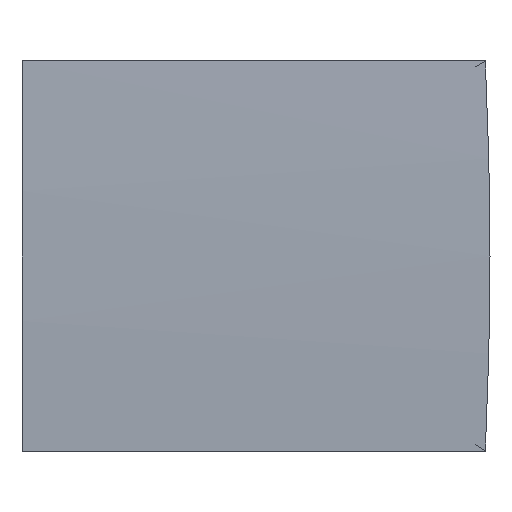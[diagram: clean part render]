
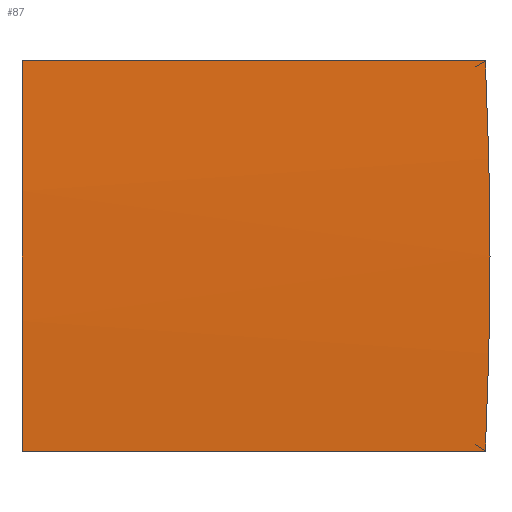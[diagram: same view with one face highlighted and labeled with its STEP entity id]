
A CAD part, left-side view. The second image highlights one B-rep face of the part: STEP entity #87.
In plain terms, the highlighted cylindrical face has radius 260.6 mm (diameter 521.2 mm), a partial arc.
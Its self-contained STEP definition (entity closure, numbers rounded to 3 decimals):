
#83 = EDGE_CURVE( '', #167, #107, #214, .T. );
#87 = ADVANCED_FACE( '', ( #218 ), #219, .T. );
#105 = EDGE_CURVE( '', #107, #119, #238, .T. );
#107 = VERTEX_POINT( '', #240 );
#119 = VERTEX_POINT( '', #254 );
#135 = EDGE_CURVE( '', #167, #155, #271, .T. );
#151 = EDGE_CURVE( '', #119, #155, #289, .T. );
#155 = VERTEX_POINT( '', #294 );
#167 = VERTEX_POINT( '', #308 );
#214 = CIRCLE( '', #351, 260.6 );
#218 = FACE_OUTER_BOUND( '', #356, .T. );
#219 = CYLINDRICAL_SURFACE( '', #357, 260.6 );
#238 = LINE( '', #383, #384 );
#240 = CARTESIAN_POINT( '', ( -3.7, 0., 12.502 ) );
#254 = CARTESIAN_POINT( '', ( -3.7, -29.7, 12.502 ) );
#271 = LINE( '', #424, #425 );
#289 = ELLIPSE( '', #451, 368.544, 260.6 );
#294 = CARTESIAN_POINT( '', ( -3.7, -29.7, -12.502 ) );
#308 = CARTESIAN_POINT( '', ( -3.7, 0., -12.502 ) );
#351 = AXIS2_PLACEMENT_3D( '', #520, #521, #522 );
#356 = EDGE_LOOP( '', ( #527, #528, #529, #530 ) );
#357 = AXIS2_PLACEMENT_3D( '', #531, #532, #533 );
#383 = CARTESIAN_POINT( '', ( -3.7, 0., 12.502 ) );
#384 = VECTOR( '', #555, 1. );
#424 = CARTESIAN_POINT( '', ( -3.7, 0., -12.502 ) );
#425 = VECTOR( '', #590, 1. );
#451 = AXIS2_PLACEMENT_3D( '', #605, #606, #607 );
#520 = CARTESIAN_POINT( '', ( 256.6, 0., 0. ) );
#521 = DIRECTION( '', ( 0., 1., 0. ) );
#522 = DIRECTION( '', ( -0.999, 0., -0.048 ) );
#527 = ORIENTED_EDGE( '', *, *, #105, .F. );
#528 = ORIENTED_EDGE( '', *, *, #83, .F. );
#529 = ORIENTED_EDGE( '', *, *, #135, .T. );
#530 = ORIENTED_EDGE( '', *, *, #151, .F. );
#531 = CARTESIAN_POINT( '', ( 256.6, 0., 0. ) );
#532 = DIRECTION( '', ( 0., 1., 0. ) );
#533 = DIRECTION( '', ( -0.999, 0., -0.048 ) );
#555 = DIRECTION( '', ( 0., -1., 0. ) );
#590 = DIRECTION( '', ( 0., -1., 0. ) );
#605 = CARTESIAN_POINT( '', ( 256.6, 230.6, 0. ) );
#606 = DIRECTION( '', ( 0.707, -0.707, 0. ) );
#607 = DIRECTION( '', ( -0.707, -0.707, 0. ) );
